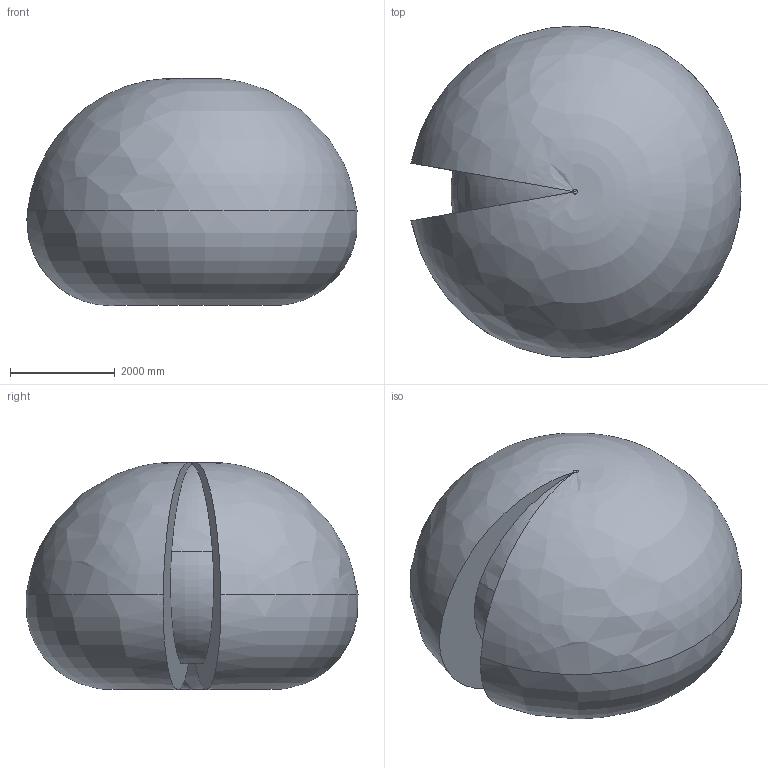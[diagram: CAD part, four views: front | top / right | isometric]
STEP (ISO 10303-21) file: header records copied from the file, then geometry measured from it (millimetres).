
FILE_DESCRIPTION (( 'STEP AP214' ), '1' );
FILE_NAME ('IRB6760_200kg-320_OC_00_ASM_CAD.step', '2025-09-30T13:08:26', ( '' ), ( '' ), 'SwSTEP 2.0', 'SolidWorks 2024', '' );
FILE_SCHEMA (( 'AUTOMOTIVE_DESIGN' ));
Length unit declared in the file: millimetre
Products named in the file (14): IRB6760_All-320_OC_00_LINK06_CAD; IRB6760_All_OC_00_LINK02m_CABLE; IRB6760_All-320_OC_00_LINK04_CAD; IRB6760_All-320_OC_00_LINK05_CAD; IRB6760_All_OC_00_ROD_CAD; IRB6760_All_OC_00_CYL_CAD; IRB6760_All_OC_00_LINK02_CAD; IRB6760_All_OC_00_LINK03_CAD; IRB6760_200kg-320_OC_00_ASM_CAD; IRB6760_All_OC_00_LINK01m_CABLE; IRB6760_All_OC_00_BASE_CAD; IRB6760_All_OC_00_LINK01_CAD; IRB6760_All_OC_00_LINK03m_CABLE; IRB6760_All-320_OC_00_Working-envelope
Assembly tree (13 placements, depth 2):
  IRB6760_200kg-320_OC_00_ASM_CAD
    IRB6760_All_OC_00_BASE_CAD
    IRB6760_All_OC_00_LINK01_CAD
    IRB6760_All_OC_00_LINK02_CAD
    IRB6760_All_OC_00_LINK03_CAD
    IRB6760_All_OC_00_CYL_CAD
    IRB6760_All_OC_00_ROD_CAD
    IRB6760_All-320_OC_00_LINK04_CAD
    IRB6760_All-320_OC_00_LINK05_CAD
    IRB6760_All-320_OC_00_LINK06_CAD
    IRB6760_All_OC_00_LINK02m_CABLE
    IRB6760_All_OC_00_LINK03m_CABLE
    IRB6760_All_OC_00_LINK01m_CABLE
    IRB6760_All-320_OC_00_Working-envelope
Bounding box: 6289.14 x 6325.68 x 4327.53 mm (x, y, z)
Volume: 89984230983.5 mm3; surface area: 146921074.9 mm2
Topology: 14 solids, 22 shells, 7694 faces, 19814 edges, 12669 vertices
Faces by surface type: plane 3562, cylinder 2007, cone 1273, bspline 639, torus 200, sphere 13
Entity records: 419504 total; most frequent: CARTESIAN_POINT 159634, ORIENTED_EDGE 39272, DIRECTION 35581, EDGE_CURVE 19636, AXIS2_PLACEMENT_3D 13125, VERTEX_POINT 12667, VECTOR 9331, LINE 9331
